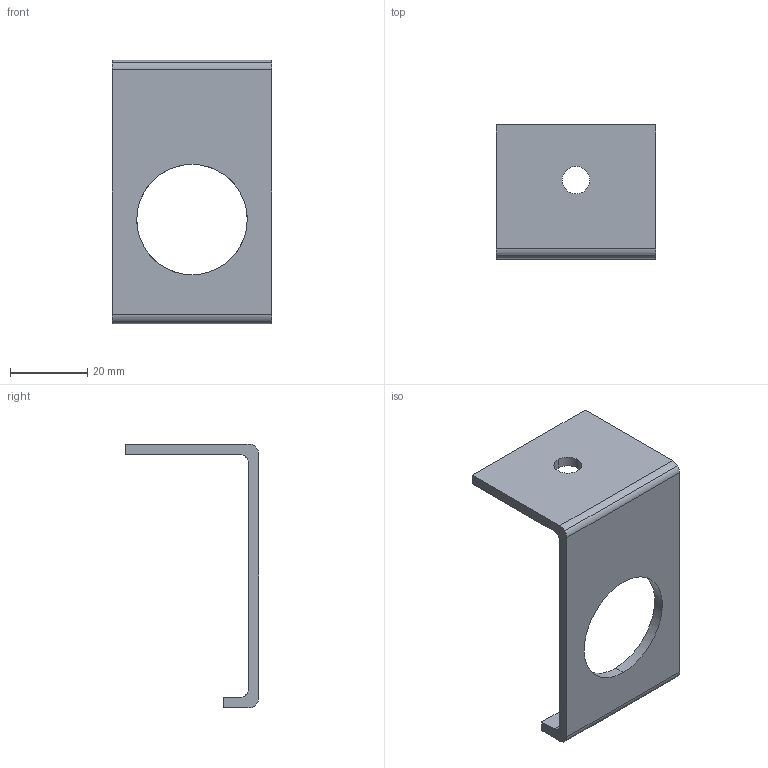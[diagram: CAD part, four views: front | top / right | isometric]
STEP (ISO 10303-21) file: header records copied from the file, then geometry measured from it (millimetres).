
FILE_DESCRIPTION(('TurboCAD Mac Pro'),'Build 980');
FILE_NAME('P5521-75.stp',' ',(''),(''),'ACIS Interop','IMSI','TurboCAD Mac Pro BY IMSI, INCORPORATED');
FILE_SCHEMA(('automotive_design'));
Length unit declared in the file: inch
Products named in the file (1): 1
Bounding box: 41.27 x 34.58 x 68.24 mm (x, y, z)
Volume: 10251.3 mm3; surface area: 8390.9 mm2
Topology: 1 solids, 1 shells, 26 faces, 72 edges, 48 vertices
Faces by surface type: plane 10, cylinder 8, bspline 8
Entity records: 1120 total; most frequent: CARTESIAN_POINT 251, ORIENTED_EDGE 144, DIRECTION 110, EDGE_CURVE 72, VERTEX_POINT 48, LINE 40, VECTOR 40, AXIS2_PLACEMENT_3D 35
